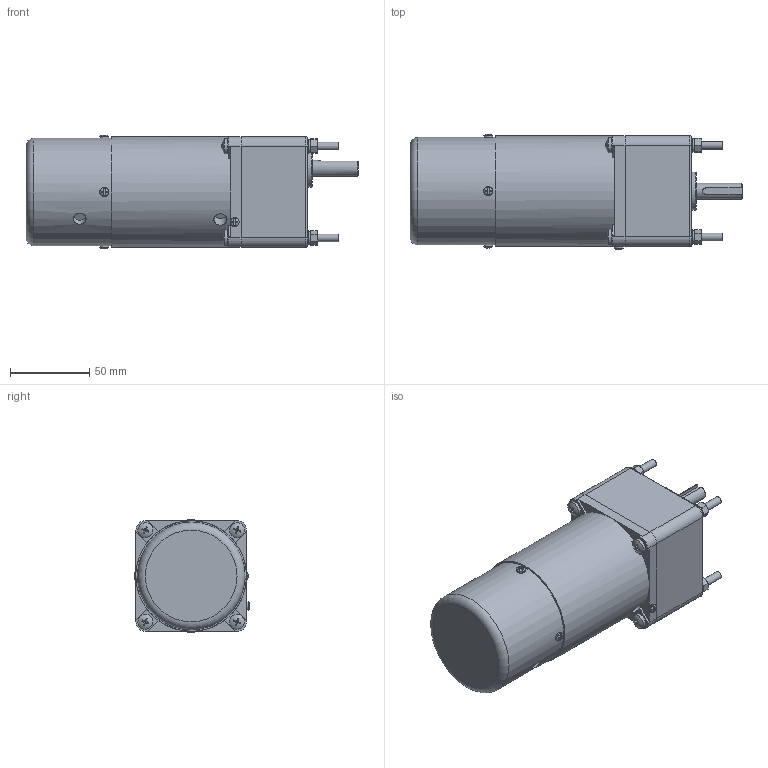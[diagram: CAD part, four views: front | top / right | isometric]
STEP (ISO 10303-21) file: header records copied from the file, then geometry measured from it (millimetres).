
FILE_DESCRIPTION(/* description */ (''),/* implementation_level */ '2;1');
FILE_NAME(/* name */ '70高箱T-25刹车.stp',/* time_stamp */ '2022-10-31T09:47:36+08:00',/* author */ (''),/* organization */ (''),/* preprocessor_version */ 'ST-DEVELOPER v16.7',/* originating_system */ 'SIEMENS PLM Software NX 1899',/* authorisation */ '');
FILE_SCHEMA (('AP203_CONFIGURATION_CONTROLLED_3D_DESIGN_OF_MECHANICAL_PARTS_AND_ASSEMBLIES_MIM_LF { 1 0 10303 403 2 1 2}'));
Length unit declared in the file: millimetre
Products named in the file (1): yf186188FEB6lce6
Bounding box: 210 x 73.08 x 72.08 mm (x, y, z)
Volume: 724760.5 mm3; surface area: 73995.2 mm2
Topology: 22 solids, 23 shells, 447 faces, 1075 edges, 695 vertices
Faces by surface type: plane 207, bspline 80, cylinder 77, cone 63, torus 11, sphere 9
Full cylindrical faces by diameter (mm): 2.7 x1, 4.351 x4, 4.826 x4, 5 x4, 5.3 x8, 5.6 x5, 6 x9, 8 x1, 8.3 x1, 9 x8, 9.5 x4, 10 x1, 24 x1, 63 x1, 66.6 x2, 68 x1, 70 x1
Entity records: 14347 total; most frequent: CARTESIAN_POINT 3858, ORIENTED_EDGE 1904, DIRECTION 1703, EDGE_CURVE 952, AXIS2_PLACEMENT_3D 708, VERTEX_POINT 658, EDGE_LOOP 593, ADVANCED_FACE 447
